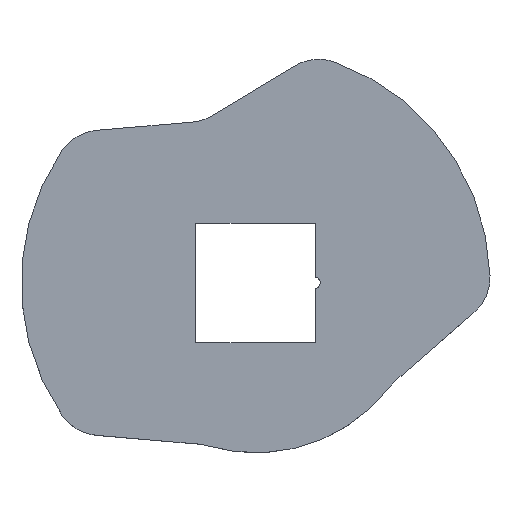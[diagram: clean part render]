
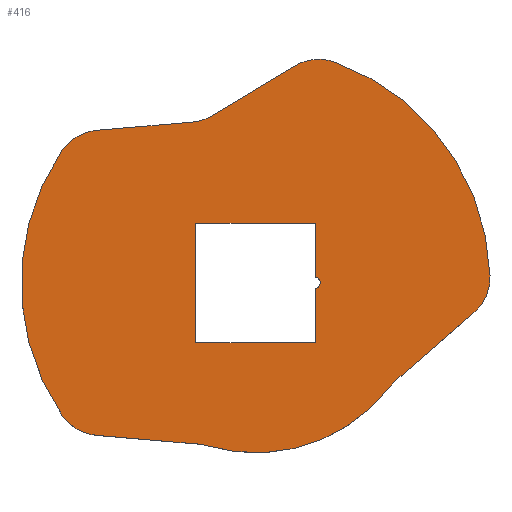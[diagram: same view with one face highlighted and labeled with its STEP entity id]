
A CAD part, top view. The second image highlights one B-rep face of the part: STEP entity #416.
In plain terms, the highlighted planar face has unit normal (0, 0, 1).
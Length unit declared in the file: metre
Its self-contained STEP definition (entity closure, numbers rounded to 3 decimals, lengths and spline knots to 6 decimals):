
#12=CIRCLE('',#438,0.004);
#14=CIRCLE('',#441,0.0145);
#16=CIRCLE('',#444,0.004);
#18=CIRCLE('',#448,0.004);
#20=CIRCLE('',#451,0.02);
#22=CIRCLE('',#454,0.004);
#24=CIRCLE('',#458,0.004);
#26=CIRCLE('',#462,0.004);
#28=CIRCLE('',#465,0.02);
#30=CIRCLE('',#468,0.004);
#33=CIRCLE('',#473,0.0005);
#125=ORIENTED_EDGE('',*,*,#216,.F.);
#126=ORIENTED_EDGE('',*,*,#168,.T.);
#127=ORIENTED_EDGE('',*,*,#217,.F.);
#128=ORIENTED_EDGE('',*,*,#218,.F.);
#129=ORIENTED_EDGE('',*,*,#219,.T.);
#130=ORIENTED_EDGE('',*,*,#220,.T.);
#131=ORIENTED_EDGE('',*,*,#169,.F.);
#132=ORIENTED_EDGE('',*,*,#173,.F.);
#133=ORIENTED_EDGE('',*,*,#176,.T.);
#134=ORIENTED_EDGE('',*,*,#179,.F.);
#135=ORIENTED_EDGE('',*,*,#182,.F.);
#136=ORIENTED_EDGE('',*,*,#185,.T.);
#137=ORIENTED_EDGE('',*,*,#188,.T.);
#138=ORIENTED_EDGE('',*,*,#191,.T.);
#139=ORIENTED_EDGE('',*,*,#194,.T.);
#140=ORIENTED_EDGE('',*,*,#197,.F.);
#141=ORIENTED_EDGE('',*,*,#200,.F.);
#142=ORIENTED_EDGE('',*,*,#203,.T.);
#143=ORIENTED_EDGE('',*,*,#206,.T.);
#144=ORIENTED_EDGE('',*,*,#209,.T.);
#168=EDGE_CURVE('',#226,#228,#268,.T.);
#169=EDGE_CURVE('',#229,#230,#269,.T.);
#173=EDGE_CURVE('',#233,#229,#12,.T.);
#176=EDGE_CURVE('',#233,#235,#14,.T.);
#179=EDGE_CURVE('',#237,#235,#16,.T.);
#182=EDGE_CURVE('',#239,#237,#276,.T.);
#185=EDGE_CURVE('',#239,#241,#18,.T.);
#188=EDGE_CURVE('',#241,#243,#20,.T.);
#191=EDGE_CURVE('',#243,#245,#22,.T.);
#194=EDGE_CURVE('',#245,#247,#282,.T.);
#197=EDGE_CURVE('',#249,#247,#24,.T.);
#200=EDGE_CURVE('',#251,#249,#286,.T.);
#203=EDGE_CURVE('',#251,#253,#26,.T.);
#206=EDGE_CURVE('',#253,#255,#28,.T.);
#209=EDGE_CURVE('',#255,#230,#30,.T.);
#216=EDGE_CURVE('',#226,#261,#33,.T.);
#217=EDGE_CURVE('',#262,#228,#295,.T.);
#218=EDGE_CURVE('',#263,#262,#296,.T.);
#219=EDGE_CURVE('',#263,#264,#297,.T.);
#220=EDGE_CURVE('',#264,#261,#298,.T.);
#226=VERTEX_POINT('',#611);
#228=VERTEX_POINT('',#615);
#229=VERTEX_POINT('',#619);
#230=VERTEX_POINT('',#620);
#233=VERTEX_POINT('',#628);
#235=VERTEX_POINT('',#634);
#237=VERTEX_POINT('',#640);
#239=VERTEX_POINT('',#646);
#241=VERTEX_POINT('',#652);
#243=VERTEX_POINT('',#658);
#245=VERTEX_POINT('',#664);
#247=VERTEX_POINT('',#670);
#249=VERTEX_POINT('',#676);
#251=VERTEX_POINT('',#682);
#253=VERTEX_POINT('',#688);
#255=VERTEX_POINT('',#694);
#261=VERTEX_POINT('',#713);
#262=VERTEX_POINT('',#715);
#263=VERTEX_POINT('',#717);
#264=VERTEX_POINT('',#719);
#268=LINE('',#616,#306);
#269=LINE('',#618,#307);
#276=LINE('',#645,#314);
#282=LINE('',#669,#320);
#286=LINE('',#681,#324);
#295=LINE('',#714,#333);
#296=LINE('',#716,#334);
#297=LINE('',#718,#335);
#298=LINE('',#720,#336);
#306=VECTOR('',#486,1.);
#307=VECTOR('',#489,1.);
#314=VECTOR('',#516,1.);
#320=VECTOR('',#542,1.);
#324=VECTOR('',#554,1.);
#333=VECTOR('',#589,1.);
#334=VECTOR('',#590,1.);
#335=VECTOR('',#591,1.);
#336=VECTOR('',#592,1.);
#358=EDGE_LOOP('',(#125,#126,#127,#128,#129,#130));
#359=EDGE_LOOP('',(#131,#132,#133,#134,#135,#136,#137,#138,#139,#140,#141,
#142,#143,#144));
#382=FACE_BOUND('',#358,.T.);
#383=FACE_BOUND('',#359,.T.);
#395=PLANE('',#472);
#416=ADVANCED_FACE('',(#382,#383),#395,.T.);
#438=AXIS2_PLACEMENT_3D('',#627,#495,#496);
#441=AXIS2_PLACEMENT_3D('',#633,#502,#503);
#444=AXIS2_PLACEMENT_3D('',#639,#509,#510);
#448=AXIS2_PLACEMENT_3D('',#651,#521,#522);
#451=AXIS2_PLACEMENT_3D('',#657,#528,#529);
#454=AXIS2_PLACEMENT_3D('',#663,#535,#536);
#458=AXIS2_PLACEMENT_3D('',#675,#547,#548);
#462=AXIS2_PLACEMENT_3D('',#687,#559,#560);
#465=AXIS2_PLACEMENT_3D('',#693,#566,#567);
#468=AXIS2_PLACEMENT_3D('',#699,#573,#574);
#472=AXIS2_PLACEMENT_3D('',#711,#585,#586);
#473=AXIS2_PLACEMENT_3D('',#712,#587,#588);
#486=DIRECTION('',(0.,-1.,0.));
#489=DIRECTION('',(-0.996,0.086,0.));
#495=DIRECTION('',(0.,0.,1.));
#496=DIRECTION('',(1.,0.,0.));
#502=DIRECTION('',(0.,0.,1.));
#503=DIRECTION('',(1.,0.,0.));
#509=DIRECTION('',(0.,0.,1.));
#510=DIRECTION('',(1.,0.,0.));
#516=DIRECTION('',(-0.756,-0.655,0.));
#521=DIRECTION('',(0.,0.,1.));
#522=DIRECTION('',(1.,0.,0.));
#528=DIRECTION('',(0.,0.,1.));
#529=DIRECTION('',(1.,0.,0.));
#535=DIRECTION('',(0.,0.,1.));
#536=DIRECTION('',(1.,0.,0.));
#542=DIRECTION('',(-0.857,-0.516,0.));
#547=DIRECTION('',(0.,0.,1.));
#548=DIRECTION('',(1.,0.,0.));
#554=DIRECTION('',(0.996,0.086,0.));
#559=DIRECTION('',(0.,0.,1.));
#560=DIRECTION('',(1.,0.,0.));
#566=DIRECTION('',(0.,0.,1.));
#567=DIRECTION('',(1.,0.,0.));
#573=DIRECTION('',(0.,0.,1.));
#574=DIRECTION('',(1.,0.,0.));
#585=DIRECTION('',(0.,0.,1.));
#586=DIRECTION('',(1.,0.,0.));
#587=DIRECTION('',(0.,0.,1.));
#588=DIRECTION('',(1.,0.,0.));
#589=DIRECTION('',(1.,0.,0.));
#590=DIRECTION('',(0.,-1.,0.));
#591=DIRECTION('',(1.,0.,0.));
#592=DIRECTION('',(0.,-1.,0.));
#611=CARTESIAN_POINT('',(0.0051,-0.00049,0.029872));
#615=CARTESIAN_POINT('',(0.0051,-0.0051,0.029872));
#616=CARTESIAN_POINT('',(0.0051,0.,0.029872));
#618=CARTESIAN_POINT('',(-0.009233,-0.013381,0.029872));
#619=CARTESIAN_POINT('',(-0.004909,-0.013753,0.029872));
#620=CARTESIAN_POINT('',(-0.013557,-0.013008,0.029872));
#627=CARTESIAN_POINT('',(-0.005253,-0.017739,0.029872));
#628=CARTESIAN_POINT('',(-0.004117,-0.013903,0.029872));
#633=CARTESIAN_POINT('',(0.,0.,0.029872));
#634=CARTESIAN_POINT('',(0.011503,-0.008828,0.029872));
#639=CARTESIAN_POINT('',(0.014676,-0.011263,0.029872));
#640=CARTESIAN_POINT('',(0.012056,-0.008241,0.029872));
#645=CARTESIAN_POINT('',(0.015335,-0.005398,0.029872));
#646=CARTESIAN_POINT('',(0.018614,-0.002555,0.029872));
#651=CARTESIAN_POINT('',(0.015993,0.000467,0.029872));
#652=CARTESIAN_POINT('',(0.019991,0.000584,0.029872));
#657=CARTESIAN_POINT('',(0.,0.,0.029872));
#658=CARTESIAN_POINT('',(0.006733,0.018833,0.029872));
#663=CARTESIAN_POINT('',(0.005386,0.015066,0.029872));
#664=CARTESIAN_POINT('',(0.003322,0.018492,0.029872));
#669=CARTESIAN_POINT('',(-0.000182,0.016381,0.029872));
#670=CARTESIAN_POINT('',(-0.003685,0.01427,0.029872));
#675=CARTESIAN_POINT('',(-0.00575,0.017696,0.029872));
#676=CARTESIAN_POINT('',(-0.005406,0.013711,0.029872));
#681=CARTESIAN_POINT('',(-0.009482,0.013359,0.029872));
#682=CARTESIAN_POINT('',(-0.013557,0.013008,0.029872));
#687=CARTESIAN_POINT('',(-0.013213,0.009023,0.029872));
#688=CARTESIAN_POINT('',(-0.016517,0.011278,0.029872));
#693=CARTESIAN_POINT('',(0.,0.,0.029872));
#694=CARTESIAN_POINT('',(-0.016517,-0.011278,0.029872));
#699=CARTESIAN_POINT('',(-0.013213,-0.009023,0.029872));
#711=CARTESIAN_POINT('',(0.,0.,0.029872));
#712=CARTESIAN_POINT('',(0.005,0.,0.029872));
#713=CARTESIAN_POINT('',(0.0051,0.00049,0.029872));
#714=CARTESIAN_POINT('',(0.,-0.0051,0.029872));
#715=CARTESIAN_POINT('',(-0.0051,-0.0051,0.029872));
#716=CARTESIAN_POINT('',(-0.0051,0.,0.029872));
#717=CARTESIAN_POINT('',(-0.0051,0.0051,0.029872));
#718=CARTESIAN_POINT('',(0.,0.0051,0.029872));
#719=CARTESIAN_POINT('',(0.0051,0.0051,0.029872));
#720=CARTESIAN_POINT('',(0.0051,0.,0.029872));
